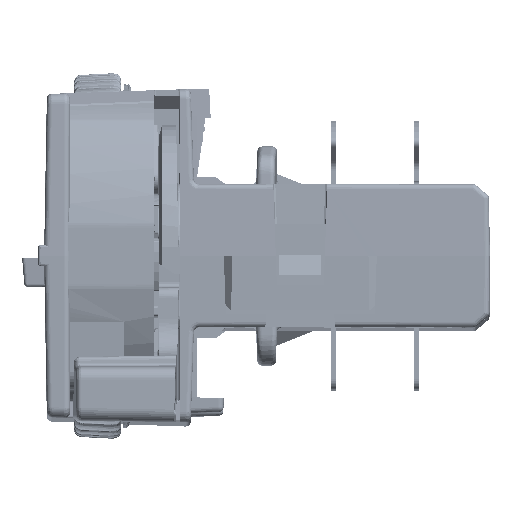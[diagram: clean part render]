
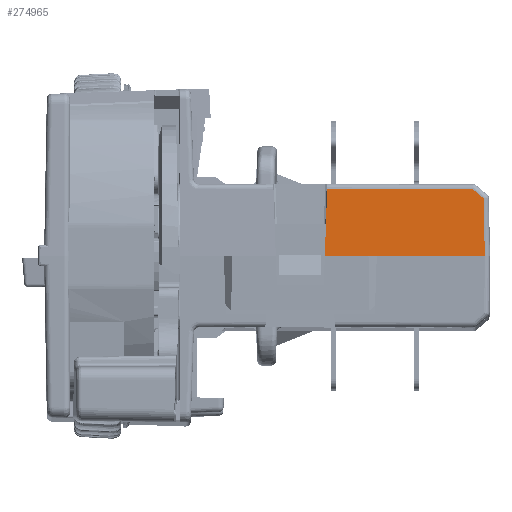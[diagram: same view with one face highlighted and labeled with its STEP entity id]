
A CAD part, top view. The second image highlights one B-rep face of the part: STEP entity #274965.
In plain terms, the highlighted planar face has unit normal (0, 0.018, 1).
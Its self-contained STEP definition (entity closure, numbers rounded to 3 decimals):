
#60166=DIRECTION('',(1.,0.,0.));
#60167=VECTOR('',#60166,10.299);
#60168=CARTESIAN_POINT('',(34.011,57.66,
-45.556));
#60169=LINE('',#60168,#60167);
#60197=DIRECTION('',(-1.,0.,-0.001));
#60198=VECTOR('',#60197,0.798);
#60199=CARTESIAN_POINT('',(34.011,57.66,
-45.556));
#60200=LINE('',#60199,#60198);
#60201=DIRECTION('',(-1.,0.,0.));
#60202=VECTOR('',#60201,4.181);
#60203=CARTESIAN_POINT('',(33.214,57.66,
-45.556));
#60204=LINE('',#60203,#60202);
#60205=DIRECTION('',(0.759,-0.651,0.011));
#60206=VECTOR('',#60205,1.363);
#60207=CARTESIAN_POINT('',(43.225,64.019,
-45.667));
#60208=LINE('',#60207,#60206);
#60209=DIRECTION('',(0.017,-1.,0.017));
#60210=VECTOR('',#60209,5.473);
#60211=CARTESIAN_POINT('',(44.26,63.132,
-45.651));
#60212=LINE('',#60211,#60210);
#60213=CARTESIAN_POINT('',(44.353,57.66,
-45.556));
#60214=CARTESIAN_POINT('',(44.348,57.66,
-45.556));
#60215=CARTESIAN_POINT('',(44.339,57.66,
-45.555));
#60216=CARTESIAN_POINT('',(44.325,57.66,
-45.556));
#60217=CARTESIAN_POINT('',(44.315,57.66,
-45.556));
#60218=CARTESIAN_POINT('',(44.31,57.66,
-45.556));
#60344=DIRECTION('',(-0.035,-0.999,0.017));
#60345=VECTOR('',#60344,6.364);
#60346=CARTESIAN_POINT('',(29.255,64.019,
-45.667));
#60347=LINE('',#60346,#60345);
#60348=DIRECTION('',(-1.,0.,0.));
#60349=VECTOR('',#60348,13.97);
#60350=CARTESIAN_POINT('',(43.225,64.019,
-45.667));
#60351=LINE('',#60350,#60349);
#80657=CARTESIAN_POINT('',(44.353,57.66,
-45.556));
#122148=VERTEX_POINT('',#80657);
#122160=CARTESIAN_POINT('',(34.011,57.66,
-45.556));
#122162=VERTEX_POINT('',#122160);
#122166=CARTESIAN_POINT('',(33.214,57.66,
-45.556));
#122167=VERTEX_POINT('',#122166);
#122275=CARTESIAN_POINT('',(44.31,57.66,
-45.556));
#122276=VERTEX_POINT('',#122275);
#122283=CARTESIAN_POINT('',(29.033,57.66,
-45.556));
#122284=VERTEX_POINT('',#122283);
#122285=CARTESIAN_POINT('',(29.255,64.019,
-45.667));
#122286=VERTEX_POINT('',#122285);
#122287=CARTESIAN_POINT('',(43.225,64.019,
-45.667));
#122288=VERTEX_POINT('',#122287);
#122289=CARTESIAN_POINT('',(44.26,63.132,
-45.651));
#122290=VERTEX_POINT('',#122289);
#274944=CARTESIAN_POINT('',(14.605,73.641,
-45.835));
#274945=DIRECTION('',(0.,-0.017,-1.));
#274946=DIRECTION('',(1.,0.,0.));
#274947=AXIS2_PLACEMENT_3D('',#274944,#274945,#274946);
#274948=PLANE('',#274947);
#274949=ORIENTED_EDGE('',*,*,#274928,.F.);
#274950=ORIENTED_EDGE('',*,*,#274903,.T.);
#274952=ORIENTED_EDGE('',*,*,#274951,.T.);
#274954=ORIENTED_EDGE('',*,*,#274953,.F.);
#274956=ORIENTED_EDGE('',*,*,#274955,.F.);
#274958=ORIENTED_EDGE('',*,*,#274957,.T.);
#274960=ORIENTED_EDGE('',*,*,#274959,.T.);
#274962=ORIENTED_EDGE('',*,*,#274961,.T.);
#274963=EDGE_LOOP('',(#274949,#274950,#274952,#274954,#274956,#274958,#274960,
#274962));
#274964=FACE_OUTER_BOUND('',#274963,.F.);
#274965=ADVANCED_FACE('',(#274964),#274948,.F.);
#60219=B_SPLINE_CURVE_WITH_KNOTS('',3,(#60213,#60214,#60215,#60216,#60217,
#60218),.UNSPECIFIED.,.F.,.F.,(4,1,1,4),(0.,0.333,
0.667,1.),.UNSPECIFIED.);
#274903=EDGE_CURVE('',#122162,#122167,#60200,.T.);
#274928=EDGE_CURVE('',#122162,#122276,#60169,.T.);
#274951=EDGE_CURVE('',#122167,#122284,#60204,.T.);
#274953=EDGE_CURVE('',#122286,#122284,#60347,.T.);
#274955=EDGE_CURVE('',#122288,#122286,#60351,.T.);
#274957=EDGE_CURVE('',#122288,#122290,#60208,.T.);
#274959=EDGE_CURVE('',#122290,#122148,#60212,.T.);
#274961=EDGE_CURVE('',#122148,#122276,#60219,.T.);
